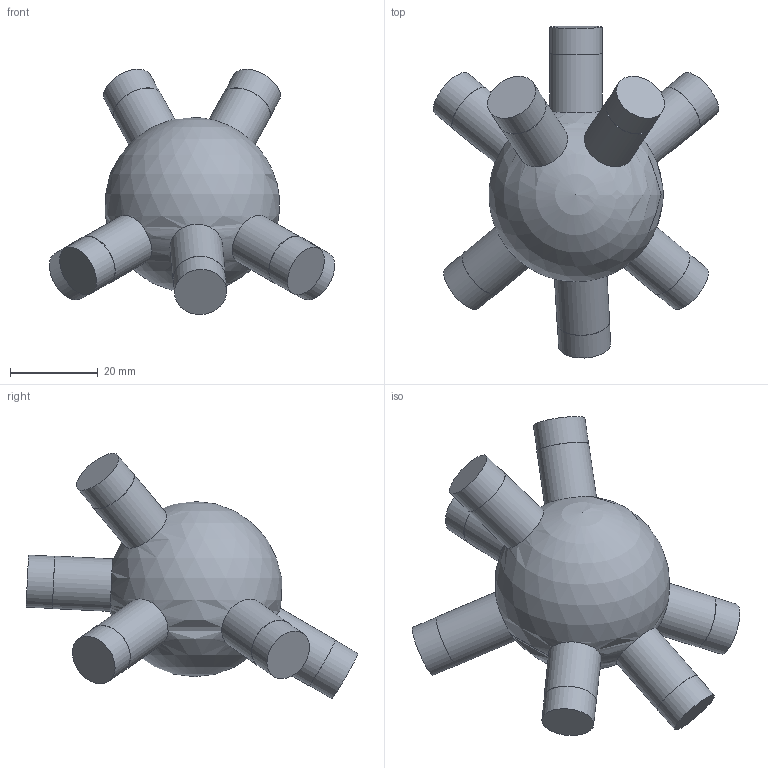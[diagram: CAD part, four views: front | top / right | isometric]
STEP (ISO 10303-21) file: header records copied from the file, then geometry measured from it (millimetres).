
FILE_DESCRIPTION(('Open CASCADE Model'),'2;1');
FILE_NAME('Open CASCADE Shape Model','2026-10-21T12:47:57',('Author'),( 'Open CASCADE'),'Open CASCADE STEP processor 7.9','Open CASCADE 7.9' ,'Unknown');
FILE_SCHEMA(('AUTOMOTIVE_DESIGN { 1 0 10303 214 1 1 1 1 }'));
Length unit declared in the file: millimetre
Products named in the file (1): Open CASCADE STEP translator 7.9 60
Bounding box: 65.1 x 75.75 x 55.95 mm (x, y, z)
Volume: 50467.1 mm3; surface area: 10812.4 mm2
Topology: 1 solids, 1 shells, 33 faces, 51 edges, 34 vertices
Faces by surface type: cylinder 16, plane 16, sphere 1
Full cylindrical faces by diameter (mm): 11.9 x8, 12 x8
Entity records: 1826 total; most frequent: CARTESIAN_POINT 681, DIRECTION 236, ORIENTED_EDGE 96, PCURVE 96, DEFINITIONAL_REPRESENTATION 96, LINE 80, VECTOR 80, AXIS2_PLACEMENT_3D 66
